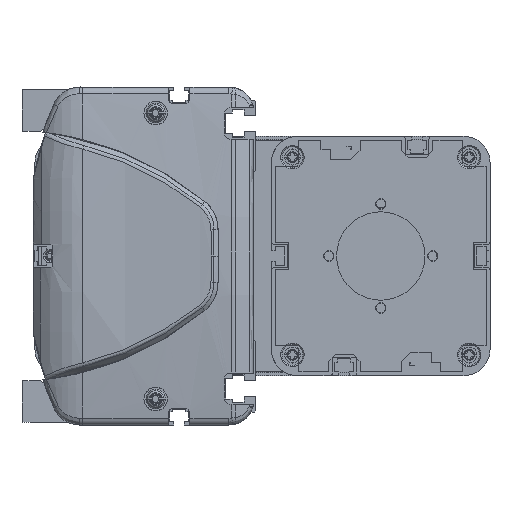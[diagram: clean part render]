
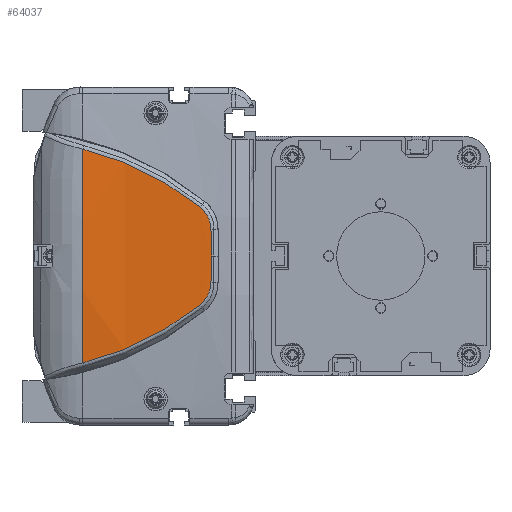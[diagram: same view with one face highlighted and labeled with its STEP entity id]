
A CAD part, left-side view. The second image highlights one B-rep face of the part: STEP entity #64037.
In plain terms, the highlighted cylindrical face has radius 500 mm (diameter 1000 mm), a partial arc.
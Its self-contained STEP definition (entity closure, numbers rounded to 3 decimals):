
#60289=CARTESIAN_POINT('',(-714.,66.962,0.));
#60290=DIRECTION('',(0.,-1.,0.));
#60291=DIRECTION('',(-0.997,0.,0.082));
#60292=AXIS2_PLACEMENT_3D('',#60289,#60290,#60291);
#61172=CARTESIAN_POINT('',(-1213.648,21.913,
-18.759));
#61173=CARTESIAN_POINT('',(-1213.449,28.504,
-24.058));
#61174=CARTESIAN_POINT('',(-1212.934,42.795,
-33.27));
#61175=CARTESIAN_POINT('',(-1212.471,58.756,
-39.127));
#61176=CARTESIAN_POINT('',(-1212.306,66.962,
-41.121));
#61178=CARTESIAN_POINT('',(-1212.306,66.962,
41.121));
#61179=CARTESIAN_POINT('',(-1212.471,58.756,
39.127));
#61180=CARTESIAN_POINT('',(-1212.934,42.795,
33.27));
#61181=CARTESIAN_POINT('',(-1213.449,28.504,
24.058));
#61182=CARTESIAN_POINT('',(-1213.648,21.913,
18.759));
#61184=CARTESIAN_POINT('',(-1213.648,21.913,
18.759));
#61185=CARTESIAN_POINT('',(-1213.686,20.635,
17.736));
#61186=CARTESIAN_POINT('',(-1213.779,18.536,
15.107));
#61187=CARTESIAN_POINT('',(-1213.863,17.752,
11.827));
#61188=CARTESIAN_POINT('',(-1213.896,17.724,
10.178));
#61190=CARTESIAN_POINT('',(-1213.896,17.724,
10.178));
#61191=CARTESIAN_POINT('',(-1213.92,17.707,
9.026));
#61192=CARTESIAN_POINT('',(-1213.959,17.667,
6.735));
#61193=CARTESIAN_POINT('',(-1213.993,17.58,
3.341));
#61194=CARTESIAN_POINT('',(-1214.,17.498,
1.108));
#61195=CARTESIAN_POINT('',(-1214.,17.449,
0.));
#61197=CARTESIAN_POINT('',(-1214.,17.449,
0.));
#61198=CARTESIAN_POINT('',(-1214.,17.498,
-1.108));
#61199=CARTESIAN_POINT('',(-1213.993,17.58,
-3.341));
#61200=CARTESIAN_POINT('',(-1213.959,17.667,
-6.734));
#61201=CARTESIAN_POINT('',(-1213.92,17.707,
-9.028));
#61202=CARTESIAN_POINT('',(-1213.896,17.724,
-10.18));
#61204=CARTESIAN_POINT('',(-1213.896,17.724,
-10.18));
#61205=CARTESIAN_POINT('',(-1213.863,17.752,
-11.828));
#61206=CARTESIAN_POINT('',(-1213.779,18.537,
-15.109));
#61207=CARTESIAN_POINT('',(-1213.686,20.635,
-17.736));
#61208=CARTESIAN_POINT('',(-1213.648,21.913,
-18.759));
#61859=VERTEX_POINT('',#61172);
#61860=VERTEX_POINT('',#61176);
#61861=CARTESIAN_POINT('',(-1212.306,66.962,
41.121));
#61862=VERTEX_POINT('',#61861);
#61863=VERTEX_POINT('',#61182);
#61864=VERTEX_POINT('',#61188);
#61865=VERTEX_POINT('',#61195);
#61866=VERTEX_POINT('',#61202);
#64018=CARTESIAN_POINT('',(-714.,8.606,0.));
#64019=DIRECTION('',(0.,1.,0.));
#64020=DIRECTION('',(1.,0.,0.));
#64021=AXIS2_PLACEMENT_3D('',#64018,#64019,#64020);
#64022=CYLINDRICAL_SURFACE('',#64021,500.);
#64024=ORIENTED_EDGE('',*,*,#64023,.T.);
#64025=ORIENTED_EDGE('',*,*,#62661,.F.);
#64027=ORIENTED_EDGE('',*,*,#64026,.T.);
#64029=ORIENTED_EDGE('',*,*,#64028,.T.);
#64031=ORIENTED_EDGE('',*,*,#64030,.T.);
#64033=ORIENTED_EDGE('',*,*,#64032,.T.);
#64034=ORIENTED_EDGE('',*,*,#64008,.T.);
#64035=EDGE_LOOP('',(#64024,#64025,#64027,#64029,#64031,#64033,#64034));
#64036=FACE_OUTER_BOUND('',#64035,.F.);
#64037=ADVANCED_FACE('',(#64036),#64022,.T.);
#60293=CIRCLE('',#60292,500.);
#61177=B_SPLINE_CURVE_WITH_KNOTS('',3,(#61172,#61173,#61174,#61175,#61176),
.UNSPECIFIED.,.F.,.F.,(4,1,4),(0.,0.5,1.),.UNSPECIFIED.);
#61183=B_SPLINE_CURVE_WITH_KNOTS('',3,(#61178,#61179,#61180,#61181,#61182),
.UNSPECIFIED.,.F.,.F.,(4,1,4),(0.,0.5,1.),.UNSPECIFIED.);
#61189=B_SPLINE_CURVE_WITH_KNOTS('',3,(#61184,#61185,#61186,#61187,#61188),
.UNSPECIFIED.,.F.,.F.,(4,1,4),(0.,0.5,1.),.UNSPECIFIED.);
#61196=B_SPLINE_CURVE_WITH_KNOTS('',3,(#61190,#61191,#61192,#61193,#61194,
#61195),.UNSPECIFIED.,.F.,.F.,(4,1,1,4),(0.,0.333,
0.667,1.),.UNSPECIFIED.);
#61203=B_SPLINE_CURVE_WITH_KNOTS('',3,(#61197,#61198,#61199,#61200,#61201,
#61202),.UNSPECIFIED.,.F.,.F.,(4,1,1,4),(0.,0.333,
0.667,1.),.UNSPECIFIED.);
#61209=B_SPLINE_CURVE_WITH_KNOTS('',3,(#61204,#61205,#61206,#61207,#61208),
.UNSPECIFIED.,.F.,.F.,(4,1,4),(0.,0.5,1.),.UNSPECIFIED.);
#62661=EDGE_CURVE('',#61862,#61860,#60293,.T.);
#64008=EDGE_CURVE('',#61866,#61859,#61209,.T.);
#64023=EDGE_CURVE('',#61859,#61860,#61177,.T.);
#64026=EDGE_CURVE('',#61862,#61863,#61183,.T.);
#64028=EDGE_CURVE('',#61863,#61864,#61189,.T.);
#64030=EDGE_CURVE('',#61864,#61865,#61196,.T.);
#64032=EDGE_CURVE('',#61865,#61866,#61203,.T.);
